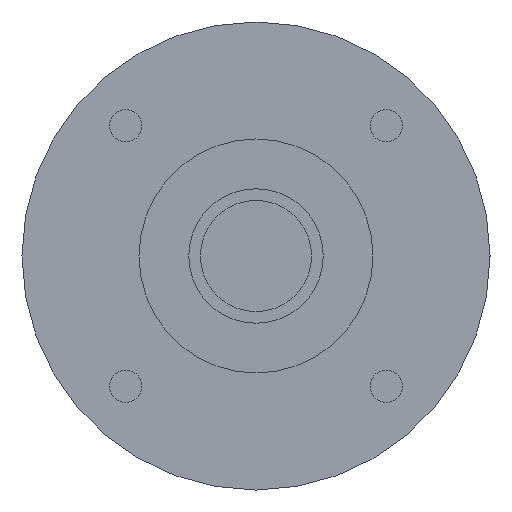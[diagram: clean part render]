
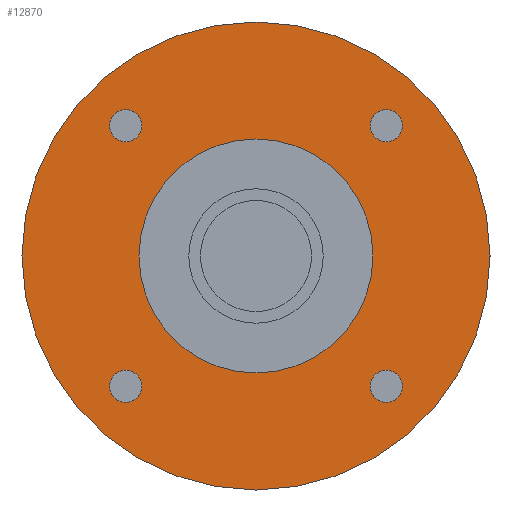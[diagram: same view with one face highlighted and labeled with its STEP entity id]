
A CAD part, left-side view. The second image highlights one B-rep face of the part: STEP entity #12870.
In plain terms, the highlighted planar face has unit normal (-1, 0, 0) as drawn and (0, 0, -1) by its records, which use the part's own axes.
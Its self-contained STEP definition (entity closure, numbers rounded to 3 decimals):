
#11730=CARTESIAN_POINT('',(-40.,0.,-42.2));
#11740=VERTEX_POINT('',#11730);
#11830=CARTESIAN_POINT('',(40.,0.,-42.2));
#11840=VERTEX_POINT('',#11830);
#11870=CARTESIAN_POINT('',(0.,0.,
-42.2));
#11880=DIRECTION('',(0.,0.,1.));
#11890=DIRECTION('',(1.,0.,0.));
#11900=AXIS2_PLACEMENT_3D('',#11870,#11880,#11890);
#11910=CIRCLE('',#11900,40.);
#11920=CARTESIAN_POINT('',(0.,-40.,-42.2));
#11930=VERTEX_POINT('',#11920);
#11940=EDGE_CURVE('',#11930,#11840,#11910,.T.);
#11960=EDGE_CURVE('',#11740,#11930,#11910,.T.);
#12010=CARTESIAN_POINT('',(0.,0.,
-42.2));
#12020=DIRECTION('',(0.,0.,-1.));
#12030=DIRECTION('',(1.,0.,0.));
#12040=AXIS2_PLACEMENT_3D('',#12010,#12020,#12030);
#12050=PLANE('',#12040);
#12060=CARTESIAN_POINT('',(22.274,22.274,-42.2));
#12070=DIRECTION('',(0.,0.,-1.));
#12080=DIRECTION('',(0.,1.,0.));
#12090=AXIS2_PLACEMENT_3D('',#12060,#12070,#12080);
#12100=CIRCLE('',#12090,2.75);
#12110=CARTESIAN_POINT('',(22.274,25.024,-42.2));
#12120=VERTEX_POINT('',#12110);
#12130=CARTESIAN_POINT('',(22.274,19.524,-42.2));
#12140=VERTEX_POINT('',#12130);
#12150=EDGE_CURVE('',#12120,#12140,#12100,.T.);
#12160=ORIENTED_EDGE('',*,*,#12150,.F.);
#12170=EDGE_CURVE('',#12140,#12120,#12100,.T.);
#12180=ORIENTED_EDGE('',*,*,#12170,.F.);
#12190=EDGE_LOOP('',(#12180,#12160));
#12200=FACE_BOUND('',#12190,.T.);
#12210=CARTESIAN_POINT('',(-22.274,22.274,-42.2));
#12220=DIRECTION('',(0.,0.,-1.));
#12230=DIRECTION('',(-1.,0.,0.));
#12240=AXIS2_PLACEMENT_3D('',#12210,#12220,#12230);
#12250=CIRCLE('',#12240,2.75);
#12260=CARTESIAN_POINT('',(-25.024,22.274,-42.2));
#12270=VERTEX_POINT('',#12260);
#12280=CARTESIAN_POINT('',(-19.524,22.274,-42.2));
#12290=VERTEX_POINT('',#12280);
#12300=EDGE_CURVE('',#12270,#12290,#12250,.T.);
#12310=ORIENTED_EDGE('',*,*,#12300,.F.);
#12320=EDGE_CURVE('',#12290,#12270,#12250,.T.);
#12330=ORIENTED_EDGE('',*,*,#12320,.F.);
#12340=EDGE_LOOP('',(#12330,#12310));
#12350=FACE_BOUND('',#12340,.T.);
#12360=CARTESIAN_POINT('',(-22.274,-22.274,-42.2));
#12370=DIRECTION('',(0.,0.,-1.));
#12380=DIRECTION('',(0.,-1.,0.));
#12390=AXIS2_PLACEMENT_3D('',#12360,#12370,#12380);
#12400=CIRCLE('',#12390,2.75);
#12410=CARTESIAN_POINT('',(-22.274,-25.024,-42.2));
#12420=VERTEX_POINT('',#12410);
#12430=CARTESIAN_POINT('',(-22.274,-19.524,-42.2));
#12440=VERTEX_POINT('',#12430);
#12450=EDGE_CURVE('',#12420,#12440,#12400,.T.);
#12460=ORIENTED_EDGE('',*,*,#12450,.F.);
#12470=EDGE_CURVE('',#12440,#12420,#12400,.T.);
#12480=ORIENTED_EDGE('',*,*,#12470,.F.);
#12490=EDGE_LOOP('',(#12480,#12460));
#12500=FACE_BOUND('',#12490,.T.);
#12510=CARTESIAN_POINT('',(0.,0.,
-42.2));
#12520=DIRECTION('',(0.,0.,-1.));
#12530=DIRECTION('',(-1.,0.,0.));
#12540=AXIS2_PLACEMENT_3D('',#12510,#12520,#12530);
#12550=CIRCLE('',#12540,20.);
#12560=CARTESIAN_POINT('',(-20.,0.,-42.2));
#12570=VERTEX_POINT('',#12560);
#12580=CARTESIAN_POINT('',(20.,0.,-42.2));
#12590=VERTEX_POINT('',#12580);
#12600=EDGE_CURVE('',#12570,#12590,#12550,.T.);
#12610=ORIENTED_EDGE('',*,*,#12600,.F.);
#12620=EDGE_CURVE('',#12590,#12570,#12550,.T.);
#12630=ORIENTED_EDGE('',*,*,#12620,.F.);
#12640=EDGE_LOOP('',(#12630,#12610));
#12650=FACE_BOUND('',#12640,.T.);
#12660=CARTESIAN_POINT('',(22.274,-22.274,-42.2));
#12670=DIRECTION('',(0.,0.,-1.));
#12680=DIRECTION('',(1.,0.,0.));
#12690=AXIS2_PLACEMENT_3D('',#12660,#12670,#12680);
#12700=CIRCLE('',#12690,2.75);
#12710=CARTESIAN_POINT('',(25.024,-22.274,-42.2));
#12720=VERTEX_POINT('',#12710);
#12730=CARTESIAN_POINT('',(19.524,-22.274,-42.2));
#12740=VERTEX_POINT('',#12730);
#12750=EDGE_CURVE('',#12720,#12740,#12700,.T.);
#12760=ORIENTED_EDGE('',*,*,#12750,.F.);
#12770=EDGE_CURVE('',#12740,#12720,#12700,.T.);
#12780=ORIENTED_EDGE('',*,*,#12770,.F.);
#12790=EDGE_LOOP('',(#12780,#12760));
#12800=FACE_BOUND('',#12790,.T.);
#12810=ORIENTED_EDGE('',*,*,#11940,.F.);
#12820=EDGE_CURVE('',#11840,#11740,#11910,.T.);
#12830=ORIENTED_EDGE('',*,*,#12820,.F.);
#12840=ORIENTED_EDGE('',*,*,#11960,.F.);
#12850=EDGE_LOOP('',(#12840,#12830,#12810));
#12860=FACE_OUTER_BOUND('',#12850,.T.);
#12870=ADVANCED_FACE('',(#12200,#12350,#12500,#12650,#12800,#12860),
#12050,.T.);
